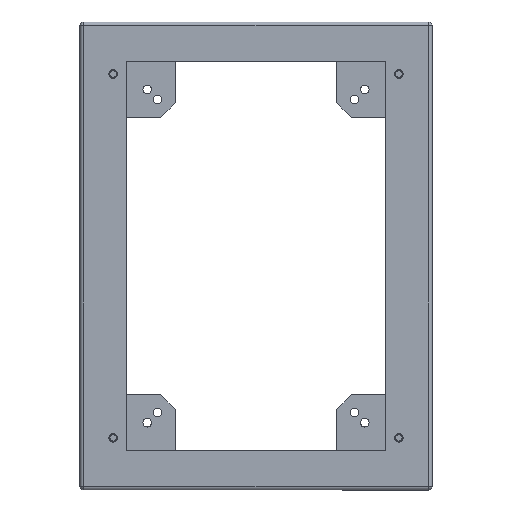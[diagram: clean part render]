
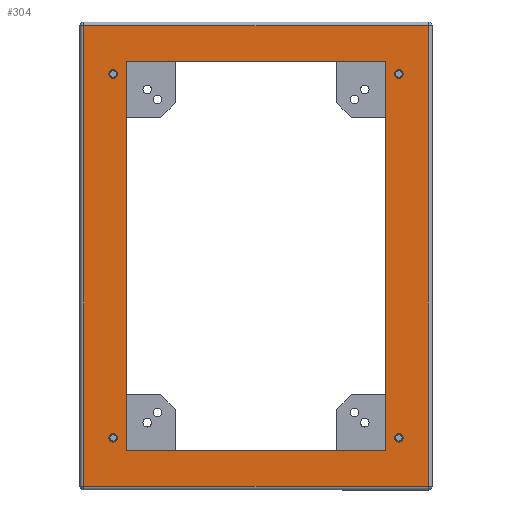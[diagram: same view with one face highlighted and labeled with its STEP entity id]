
A CAD part, top view. The second image highlights one B-rep face of the part: STEP entity #304.
In plain terms, the highlighted planar face has unit normal (0, 0, 1).
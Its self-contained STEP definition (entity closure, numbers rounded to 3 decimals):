
#304=ADVANCED_FACE('',(#1182,#1184,#1186,#1188,#1190,#1192),#1194,.T.);
#1182=FACE_BOUND('',#1183,.T.);
#1183=EDGE_LOOP('',(#2115,#2116,#2117,#2118));
#1184=FACE_BOUND('',#1185,.T.);
#1185=EDGE_LOOP('',(#2119,#2120,#2121,#2122));
#1186=FACE_BOUND('',#1187,.T.);
#1187=EDGE_LOOP('',(#2123));
#1188=FACE_BOUND('',#1189,.T.);
#1189=EDGE_LOOP('',(#2124));
#1190=FACE_BOUND('',#1191,.T.);
#1191=EDGE_LOOP('',(#2125));
#1192=FACE_BOUND('',#1193,.T.);
#1193=EDGE_LOOP('',(#2126));
#1194=PLANE('',#1195);
#1195=AXIS2_PLACEMENT_3D('',#1196,#1197,#1198);
#1196=CARTESIAN_POINT('',(0.,0.,-49.));
#1197=DIRECTION('',(0.,0.,1.));
#1198=DIRECTION('',(0.,1.,0.));
#2115=ORIENTED_EDGE('',*,*,#2465,.T.);
#2116=ORIENTED_EDGE('',*,*,#2461,.T.);
#2117=ORIENTED_EDGE('',*,*,#2456,.T.);
#2118=ORIENTED_EDGE('',*,*,#2469,.T.);
#2119=ORIENTED_EDGE('',*,*,#2447,.T.);
#2120=ORIENTED_EDGE('',*,*,#2454,.T.);
#2121=ORIENTED_EDGE('',*,*,#2452,.T.);
#2122=ORIENTED_EDGE('',*,*,#2450,.T.);
#2123=ORIENTED_EDGE('',*,*,#2446,.T.);
#2124=ORIENTED_EDGE('',*,*,#2445,.T.);
#2125=ORIENTED_EDGE('',*,*,#2444,.T.);
#2126=ORIENTED_EDGE('',*,*,#2443,.T.);
#2443=EDGE_CURVE('',#2871,#2871,#2872,.F.);
#2444=EDGE_CURVE('',#2873,#2873,#2874,.F.);
#2445=EDGE_CURVE('',#2875,#2875,#2876,.F.);
#2446=EDGE_CURVE('',#2877,#2877,#2878,.F.);
#2447=EDGE_CURVE('',#2879,#2880,#2881,.F.);
#2450=EDGE_CURVE('',#2884,#2879,#2885,.F.);
#2452=EDGE_CURVE('',#2887,#2884,#2888,.F.);
#2454=EDGE_CURVE('',#2880,#2887,#2890,.F.);
#2456=EDGE_CURVE('',#2893,#2891,#2894,.T.);
#2461=EDGE_CURVE('',#2899,#2893,#2900,.T.);
#2465=EDGE_CURVE('',#2904,#2899,#2905,.T.);
#2469=EDGE_CURVE('',#2891,#2904,#2909,.T.);
#2871=VERTEX_POINT('',#3877);
#2872=CIRCLE('',#3878,5.5);
#2873=VERTEX_POINT('',#3882);
#2874=CIRCLE('',#3883,5.5);
#2875=VERTEX_POINT('',#3887);
#2876=CIRCLE('',#3888,5.5);
#2877=VERTEX_POINT('',#3892);
#2878=CIRCLE('',#3893,5.5);
#2879=VERTEX_POINT('',#3897);
#2880=VERTEX_POINT('',#3898);
#2881=LINE('',#3899,#3900);
#2884=VERTEX_POINT('',#3908);
#2885=LINE('',#3909,#3910);
#2887=VERTEX_POINT('',#3915);
#2888=LINE('',#3916,#3917);
#2890=LINE('',#3922,#3923);
#2891=VERTEX_POINT('',#3925);
#2893=VERTEX_POINT('',#3930);
#2894=LINE('',#3931,#3932);
#2899=VERTEX_POINT('',#3950);
#2900=LINE('',#3951,#3952);
#2904=VERTEX_POINT('',#3966);
#2905=LINE('',#3967,#3968);
#2909=LINE('',#3982,#3983);
#3877=CARTESIAN_POINT('',(-383.5,24.,-49.));
#3878=AXIS2_PLACEMENT_3D('',#3879,#3880,#3881);
#3879=CARTESIAN_POINT('',(-383.5,18.5,-49.));
#3880=DIRECTION('',(0.,0.,1.));
#3881=DIRECTION('',(0.,1.,0.));
#3882=CARTESIAN_POINT('',(-18.5,24.,-49.));
#3883=AXIS2_PLACEMENT_3D('',#3884,#3885,#3886);
#3884=CARTESIAN_POINT('',(-18.5,18.5,-49.));
#3885=DIRECTION('',(0.,0.,1.));
#3886=DIRECTION('',(0.,1.,0.));
#3887=CARTESIAN_POINT('',(-18.5,489.,-49.));
#3888=AXIS2_PLACEMENT_3D('',#3889,#3890,#3891);
#3889=CARTESIAN_POINT('',(-18.5,483.5,-49.));
#3890=DIRECTION('',(0.,0.,1.));
#3891=DIRECTION('',(0.,1.,0.));
#3892=CARTESIAN_POINT('',(-383.5,489.,-49.));
#3893=AXIS2_PLACEMENT_3D('',#3894,#3895,#3896);
#3894=CARTESIAN_POINT('',(-383.5,483.5,-49.));
#3895=DIRECTION('',(0.,0.,1.));
#3896=DIRECTION('',(0.,1.,0.));
#3897=CARTESIAN_POINT('',(-366.,2.,-49.));
#3898=CARTESIAN_POINT('',(-366.,500.,-49.));
#3899=CARTESIAN_POINT('',(-366.,500.,-49.));
#3900=VECTOR('',#3901,1.);
#3901=DIRECTION('',(0.,-1.,0.));
#3908=CARTESIAN_POINT('',(-36.,2.,-49.));
#3909=CARTESIAN_POINT('',(-366.,2.,-49.));
#3910=VECTOR('',#3911,1.);
#3911=DIRECTION('',(1.,0.,0.));
#3915=CARTESIAN_POINT('',(-36.,500.,-49.));
#3916=CARTESIAN_POINT('',(-36.,2.,-49.));
#3917=VECTOR('',#3918,1.);
#3918=DIRECTION('',(0.,1.,0.));
#3922=CARTESIAN_POINT('',(-36.,500.,-49.));
#3923=VECTOR('',#3924,1.);
#3924=DIRECTION('',(-1.,0.,0.));
#3925=CARTESIAN_POINT('',(19.4,545.4,-49.));
#3930=CARTESIAN_POINT('',(19.4,-43.4,-49.));
#3931=CARTESIAN_POINT('',(19.4,-43.4,-49.));
#3932=VECTOR('',#3933,1.);
#3933=DIRECTION('',(0.,1.,0.));
#3950=CARTESIAN_POINT('',(-421.4,-43.4,-49.));
#3951=CARTESIAN_POINT('',(-421.4,-43.4,-49.));
#3952=VECTOR('',#3953,1.);
#3953=DIRECTION('',(1.,0.,0.));
#3966=CARTESIAN_POINT('',(-421.4,545.4,-49.));
#3967=CARTESIAN_POINT('',(-421.4,545.4,-49.));
#3968=VECTOR('',#3969,1.);
#3969=DIRECTION('',(0.,-1.,0.));
#3982=CARTESIAN_POINT('',(19.4,545.4,-49.));
#3983=VECTOR('',#3984,1.);
#3984=DIRECTION('',(-1.,0.,0.));
